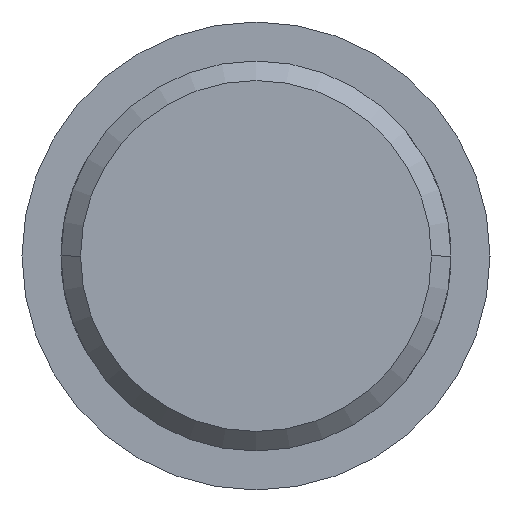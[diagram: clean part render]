
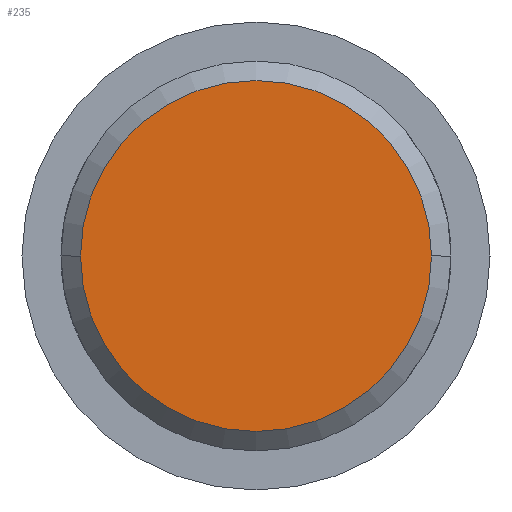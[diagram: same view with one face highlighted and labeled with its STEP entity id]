
A CAD part, left-side view. The second image highlights one B-rep face of the part: STEP entity #235.
In plain terms, the highlighted planar face has unit normal (-1, 0, 0).
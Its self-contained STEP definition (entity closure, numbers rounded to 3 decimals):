
#93 = EDGE_CURVE ( 'NONE', #124, #131, #584, .T. ) ;
#124 = VERTEX_POINT ( 'NONE', #557 ) ;
#131 = VERTEX_POINT ( 'NONE', #634 ) ;
#192 = EDGE_CURVE ( 'NONE', #131, #124, #719, .T. ) ;
#235 = ADVANCED_FACE ( 'NONE', ( #934 ), #1072, .F. ) ;
#288 = EDGE_LOOP ( 'NONE', ( #310, #318 ) ) ;
#310 = ORIENTED_EDGE ( 'NONE', *, *, #192, .T. ) ;
#318 = ORIENTED_EDGE ( 'NONE', *, *, #93, .T. ) ;
#510 = DIRECTION ( 'NONE',  ( -1., 0., 0. ) ) ;
#546 = CARTESIAN_POINT ( 'NONE',  ( -121.25, 0., 0. ) ) ;
#557 = CARTESIAN_POINT ( 'NONE',  ( -121.25, -4.5, 0. ) ) ;
#584 = CIRCLE ( 'NONE', #612, 4.5 ) ;
#603 = DIRECTION ( 'NONE',  ( 0., 1., 0. ) ) ;
#612 = AXIS2_PLACEMENT_3D ( 'NONE', #546, #510, #603 ) ;
#634 = CARTESIAN_POINT ( 'NONE',  ( -121.25, 4.5, 0. ) ) ;
#705 = DIRECTION ( 'NONE',  ( 0., 1., 0. ) ) ;
#706 = DIRECTION ( 'NONE',  ( -1., 0., 0. ) ) ;
#707 = AXIS2_PLACEMENT_3D ( 'NONE', #837, #706, #705 ) ;
#719 = CIRCLE ( 'NONE', #707, 4.5 ) ;
#837 = CARTESIAN_POINT ( 'NONE',  ( -121.25, 0., 0. ) ) ;
#934 = FACE_OUTER_BOUND ( 'NONE', #288, .T. ) ;
#958 = DIRECTION ( 'NONE',  ( 0., 1., 0. ) ) ;
#960 = CARTESIAN_POINT ( 'NONE',  ( -121.25, 5., 0. ) ) ;
#980 = AXIS2_PLACEMENT_3D ( 'NONE', #960, #1014, #958 ) ;
#1014 = DIRECTION ( 'NONE',  ( 1., 0., 0. ) ) ;
#1072 = PLANE ( 'NONE',  #980 ) ;
